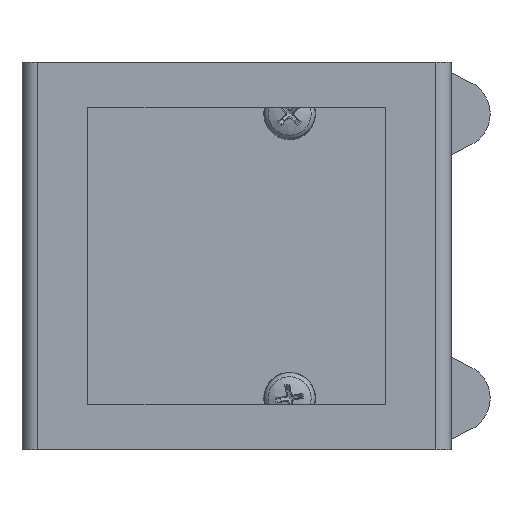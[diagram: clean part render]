
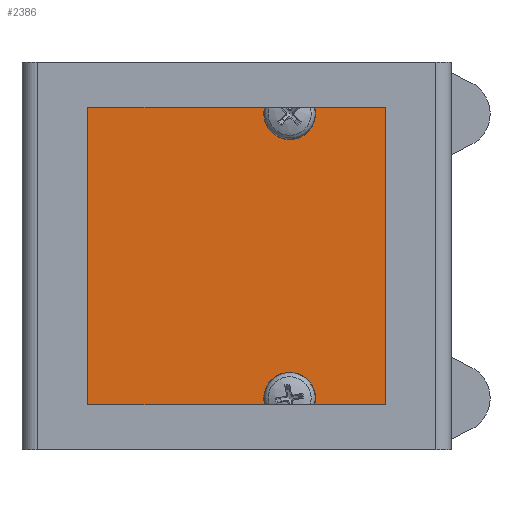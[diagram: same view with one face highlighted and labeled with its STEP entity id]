
A CAD part, front view. The second image highlights one B-rep face of the part: STEP entity #2386.
In plain terms, the highlighted planar face has unit normal (0, -1, 0).
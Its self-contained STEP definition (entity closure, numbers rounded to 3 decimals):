
#107=FACE_BOUND('',#430,.T.);
#108=FACE_BOUND('',#431,.T.);
#123=CIRCLE('',#2582,2.25);
#125=CIRCLE('',#2585,2.25);
#127=CIRCLE('',#2592,1.);
#129=CIRCLE('',#2596,1.);
#292=FACE_OUTER_BOUND('',#429,.T.);
#429=EDGE_LOOP('',(#1625,#1626,#1627,#1628,#1629,#1630));
#430=EDGE_LOOP('',(#1631));
#431=EDGE_LOOP('',(#1632));
#598=LINE('',#3637,#804);
#601=LINE('',#3643,#807);
#602=LINE('',#3647,#808);
#603=LINE('',#3648,#809);
#804=VECTOR('',#2904,10.);
#807=VECTOR('',#2909,10.);
#808=VECTOR('',#2912,10.);
#809=VECTOR('',#2913,10.);
#990=VERTEX_POINT('',#3591);
#992=VERTEX_POINT('',#3597);
#1002=VERTEX_POINT('',#3627);
#1003=VERTEX_POINT('',#3628);
#1006=VERTEX_POINT('',#3636);
#1008=VERTEX_POINT('',#3642);
#1009=VERTEX_POINT('',#3644);
#1010=VERTEX_POINT('',#3646);
#1228=EDGE_CURVE('',#990,#990,#123,.T.);
#1231=EDGE_CURVE('',#992,#992,#125,.T.);
#1246=EDGE_CURVE('',#1002,#1003,#127,.T.);
#1250=EDGE_CURVE('',#1003,#1006,#598,.T.);
#1253=EDGE_CURVE('',#1008,#1002,#601,.T.);
#1254=EDGE_CURVE('',#1009,#1008,#129,.T.);
#1255=EDGE_CURVE('',#1010,#1009,#602,.T.);
#1256=EDGE_CURVE('',#1010,#1006,#603,.T.);
#1625=ORIENTED_EDGE('',*,*,#1246,.F.);
#1626=ORIENTED_EDGE('',*,*,#1253,.F.);
#1627=ORIENTED_EDGE('',*,*,#1254,.F.);
#1628=ORIENTED_EDGE('',*,*,#1255,.F.);
#1629=ORIENTED_EDGE('',*,*,#1256,.T.);
#1630=ORIENTED_EDGE('',*,*,#1250,.F.);
#1631=ORIENTED_EDGE('',*,*,#1228,.T.);
#1632=ORIENTED_EDGE('',*,*,#1231,.T.);
#2308=PLANE('',#2595);
#2386=ADVANCED_FACE('',(#292,#107,#108),#2308,.T.);
#2582=AXIS2_PLACEMENT_3D('',#3592,#2862,#2863);
#2585=AXIS2_PLACEMENT_3D('',#3598,#2869,#2870);
#2592=AXIS2_PLACEMENT_3D('',#3629,#2896,#2897);
#2595=AXIS2_PLACEMENT_3D('',#3641,#2907,#2908);
#2596=AXIS2_PLACEMENT_3D('',#3645,#2910,#2911);
#2862=DIRECTION('center_axis',(0.,1.,0.));
#2863=DIRECTION('ref_axis',(1.,0.,0.));
#2869=DIRECTION('center_axis',(0.,1.,0.));
#2870=DIRECTION('ref_axis',(1.,0.,0.));
#2896=DIRECTION('center_axis',(0.,1.,0.));
#2897=DIRECTION('ref_axis',(-0.707,0.,0.707));
#2904=DIRECTION('',(1.,0.,0.));
#2907=DIRECTION('center_axis',(0.,-1.,0.));
#2908=DIRECTION('ref_axis',(0.,0.,-1.));
#2909=DIRECTION('',(0.,0.,1.));
#2910=DIRECTION('center_axis',(0.,1.,0.));
#2911=DIRECTION('ref_axis',(-0.707,0.,-0.707));
#2912=DIRECTION('',(-1.,0.,0.));
#2913=DIRECTION('',(0.,0.,1.));
#3591=CARTESIAN_POINT('',(39.15,98.,52.));
#3592=CARTESIAN_POINT('Origin',(41.4,98.,52.));
#3597=CARTESIAN_POINT('',(39.15,98.,8.));
#3598=CARTESIAN_POINT('Origin',(41.4,98.,8.));
#3627=CARTESIAN_POINT('',(0.,98.,59.));
#3628=CARTESIAN_POINT('',(1.,98.,60.));
#3629=CARTESIAN_POINT('Origin',(1.,98.,59.));
#3636=CARTESIAN_POINT('',(64.,98.,60.));
#3637=CARTESIAN_POINT('',(281.743,98.,60.));
#3641=CARTESIAN_POINT('Origin',(140.872,98.,30.));
#3642=CARTESIAN_POINT('',(0.,98.,1.));
#3643=CARTESIAN_POINT('',(0.,98.,0.));
#3644=CARTESIAN_POINT('',(1.,98.,0.));
#3645=CARTESIAN_POINT('Origin',(1.,98.,1.));
#3646=CARTESIAN_POINT('',(64.,98.,0.));
#3647=CARTESIAN_POINT('',(64.,98.,0.));
#3648=CARTESIAN_POINT('',(64.,98.,30.));
